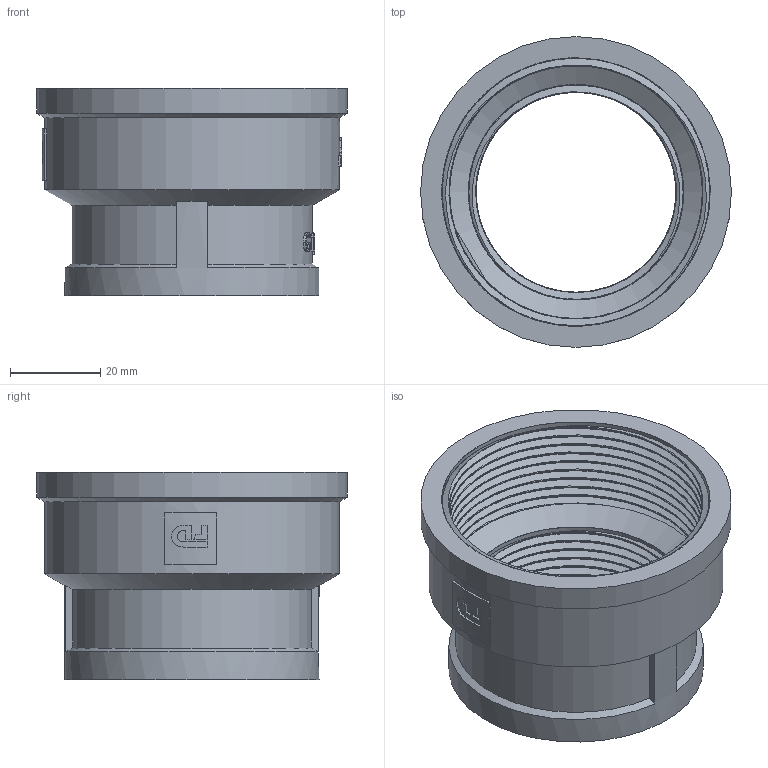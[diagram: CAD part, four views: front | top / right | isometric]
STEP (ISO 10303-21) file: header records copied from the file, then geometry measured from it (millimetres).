
FILE_DESCRIPTION(/* description */ (''),/* implementation_level */ '2;1');
FILE_NAME(/* name */ 'C:\Users\Doom\Desktop\Фадотех\Резьба\M22 17.03.2020\M22 17.03.2020.stp',/* time_stamp */ '2022-01-06T01:05:23+02:00',/* author */ ('Doom'),/* organization */ (''),/* preprocessor_version */ 'ST-DEVELOPER v18',/* originating_system */ 'Autodesk Inventor 2020',/* authorisation */ '');
FILE_SCHEMA (('AUTOMOTIVE_DESIGN { 1 0 10303 214 3 1 1 }'));
Length unit declared in the file: millimetre
Products named in the file (1): M21 17.03.2020
Bounding box: 69 x 69 x 46 mm (x, y, z)
Volume: 40444.6 mm3; surface area: 41175.5 mm2
Topology: 3 solids, 3 shells, 190 faces, 524 edges, 349 vertices
Faces by surface type: plane 87, bspline 54, cylinder 44, cone 5
Full cylindrical faces by diameter (mm): 44.376 x10, 47.8 x2, 56.176 x8, 56.5 x1, 59.6 x2, 65.5 x1, 69 x1
Entity records: 17992 total; most frequent: CARTESIAN_POINT 13481, ORIENTED_EDGE 1032, DIRECTION 763, EDGE_CURVE 516, VERTEX_POINT 345, AXIS2_PLACEMENT_3D 276, LINE 211, VECTOR 211
